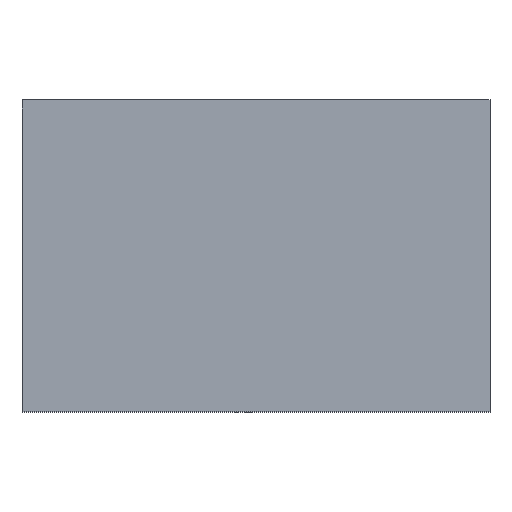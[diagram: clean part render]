
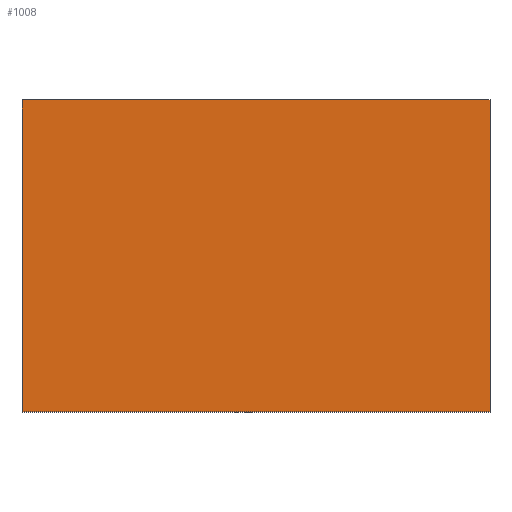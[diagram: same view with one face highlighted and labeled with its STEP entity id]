
A CAD part, top view. The second image highlights one B-rep face of the part: STEP entity #1008.
In plain terms, the highlighted planar face has unit normal (0, 0, 1).
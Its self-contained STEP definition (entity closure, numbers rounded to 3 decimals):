
#95=LINE('',#4882,#107);
#99=LINE('',#4890,#111);
#102=LINE('',#4896,#114);
#104=LINE('',#4899,#116);
#107=VECTOR('',#4175,1.);
#111=VECTOR('',#4181,1.);
#114=VECTOR('',#4186,1.);
#116=VECTOR('',#4190,1.);
#511=PLANE('',#3199);
#711=FACE_OUTER_BOUND('',#1693,.T.);
#1008=ADVANCED_FACE('',(#711),#511,.T.);
#1693=EDGE_LOOP('',(#2099,#2100,#2101,#2102));
#2099=ORIENTED_EDGE('',*,*,#2505,.T.);
#2100=ORIENTED_EDGE('',*,*,#2509,.T.);
#2101=ORIENTED_EDGE('',*,*,#2512,.T.);
#2102=ORIENTED_EDGE('',*,*,#2514,.T.);
#2303=VERTEX_POINT('',#4881);
#2304=VERTEX_POINT('',#4883);
#2306=VERTEX_POINT('',#4889);
#2308=VERTEX_POINT('',#4895);
#2505=EDGE_CURVE('',#2304,#2303,#95,.T.);
#2509=EDGE_CURVE('',#2303,#2306,#99,.T.);
#2512=EDGE_CURVE('',#2306,#2308,#102,.T.);
#2514=EDGE_CURVE('',#2308,#2304,#104,.T.);
#3199=AXIS2_PLACEMENT_3D('',#4901,#4193,#4194);
#4175=DIRECTION('',(-1.,0.,0.));
#4181=DIRECTION('',(0.,-1.,0.));
#4186=DIRECTION('',(1.,0.,0.));
#4190=DIRECTION('',(0.,1.,0.));
#4193=DIRECTION('',(0.,0.,1.));
#4194=DIRECTION('',(1.,0.,0.));
#4881=CARTESIAN_POINT('',(4.1,53.8,5.));
#4882=CARTESIAN_POINT('',(79.1,53.8,5.));
#4883=CARTESIAN_POINT('',(79.1,53.8,5.));
#4889=CARTESIAN_POINT('',(4.1,3.8,5.));
#4890=CARTESIAN_POINT('',(4.1,53.8,5.));
#4895=CARTESIAN_POINT('',(79.1,3.8,5.));
#4896=CARTESIAN_POINT('',(4.1,3.8,5.));
#4899=CARTESIAN_POINT('',(79.1,3.8,5.));
#4901=CARTESIAN_POINT('',(0.,0.,5.));
